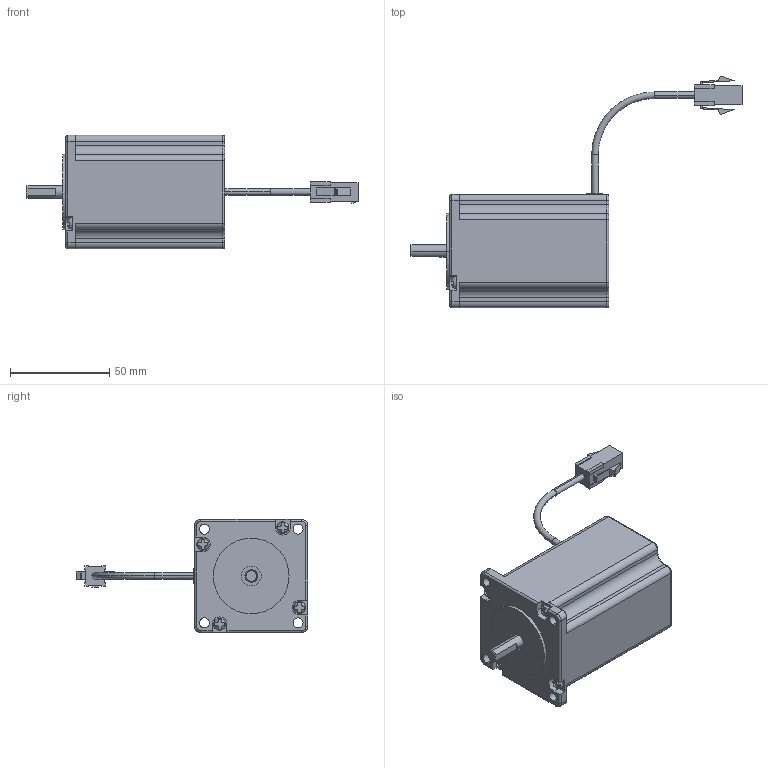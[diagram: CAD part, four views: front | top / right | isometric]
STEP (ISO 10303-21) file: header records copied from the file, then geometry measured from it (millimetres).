
FILE_DESCRIPTION (( 'STEP AP203' ), '1' );
FILE_NAME ('P21-MO-056-03-R00.STEP', '2015-06-30T08:19:28', ( '' ), ( '' ), 'SwSTEP 2.0', 'SolidWorks 2013', '' );
FILE_SCHEMA (( 'CONFIG_CONTROL_DESIGN' ));
Length unit declared in the file: millimetre
Products named in the file (3): M21-MO-056-03-R00; Power_Cable_ル遽; P21-MO-056-03-R00
Assembly tree (2 placements, depth 2):
  P21-MO-056-03-R00
    M21-MO-056-03-R00
    Power_Cable_ル遽
Bounding box: 167.07 x 116.61 x 57 mm (x, y, z)
Volume: 235679.1 mm3; surface area: 27831.4 mm2
Topology: 2 solids, 2 shells, 280 faces, 736 edges, 475 vertices
Faces by surface type: plane 173, cylinder 83, torus 14, bspline 8, cone 2
Entity records: 9226 total; most frequent: CARTESIAN_POINT 1970, ORIENTED_EDGE 1456, DIRECTION 1440, EDGE_CURVE 728, AXIS2_PLACEMENT_3D 481, VECTOR 478, LINE 478, VERTEX_POINT 475
